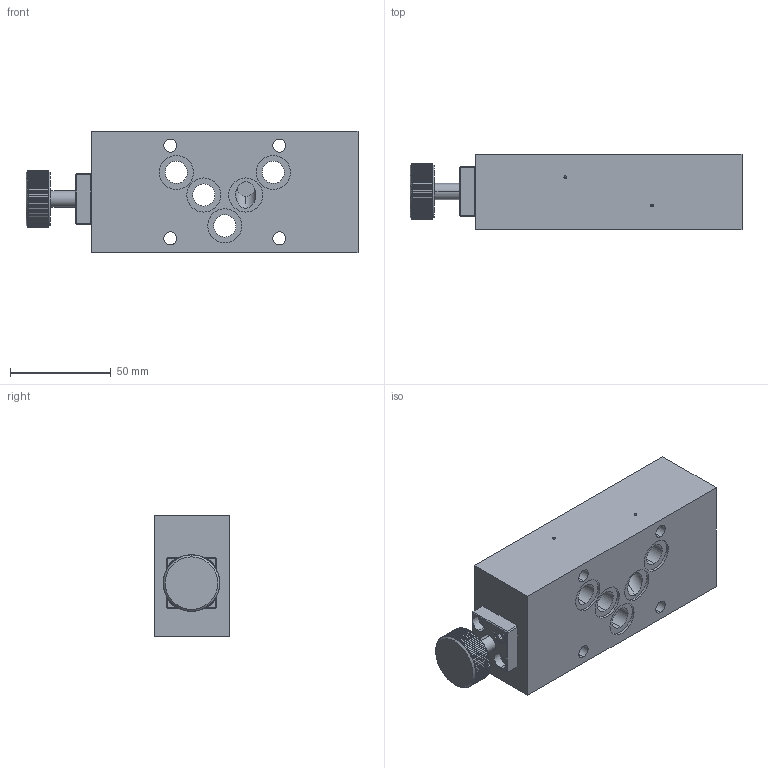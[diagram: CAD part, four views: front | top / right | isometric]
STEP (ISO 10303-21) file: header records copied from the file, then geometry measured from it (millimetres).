
FILE_DESCRIPTION (( 'STEP AP214' ), '1' );
FILE_NAME ('AAHA10_O.STEP', '2017-05-08T12:24:55', ( '' ), ( '' ), 'SwSTEP 2.0', 'SolidWorks 2016', '' );
FILE_SCHEMA (( 'AUTOMOTIVE_DESIGN' ));
Length unit declared in the file: millimetre
Products named in the file (1): AAHA10_O
Bounding box: 164.5 x 37.5 x 60 mm (x, y, z)
Volume: 283905 mm3; surface area: 45755.1 mm2
Topology: 5 solids, 7 shells, 523 faces, 1393 edges, 894 vertices
Faces by surface type: cylinder 348, plane 121, cone 42, torus 8, sphere 4
Entity records: 23902 total; most frequent: CARTESIAN_POINT 5435, ORIENTED_EDGE 2754, DIRECTION 2521, EDGE_CURVE 1377, AXIS2_PLACEMENT_3D 980, VERTEX_POINT 894, EDGE_LOOP 581, LINE 561
